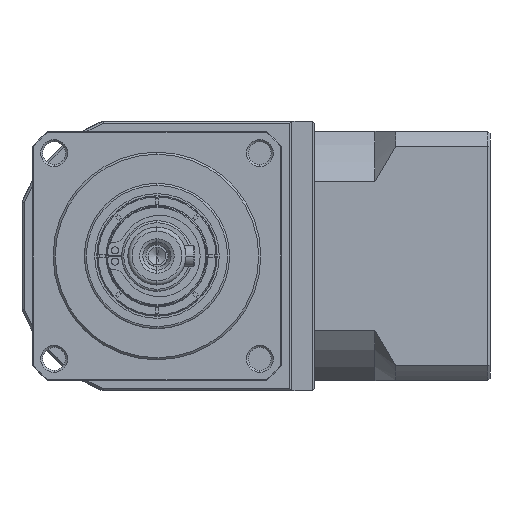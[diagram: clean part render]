
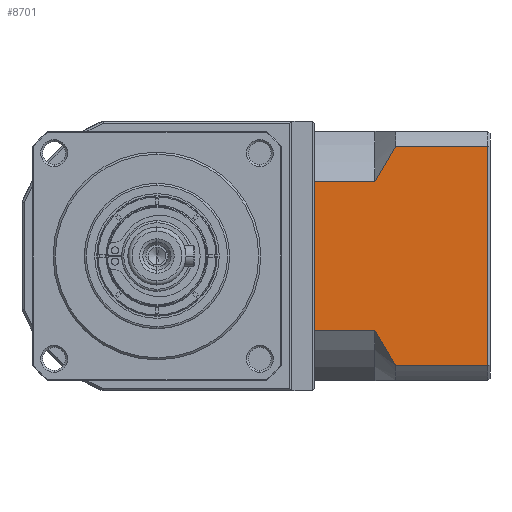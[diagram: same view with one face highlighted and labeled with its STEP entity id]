
A CAD part, left-side view. The second image highlights one B-rep face of the part: STEP entity #8701.
In plain terms, the highlighted planar face has unit normal (-1, 0, 0).
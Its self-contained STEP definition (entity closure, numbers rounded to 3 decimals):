
#1006 = EDGE_LOOP ( 'NONE', ( #67806, #91049, #91201, #48732, #108900, #2309, #54892, #103045 ) ) ;
#2309 = ORIENTED_EDGE ( 'NONE', *, *, #157780, .T. ) ;
#2858 = VECTOR ( 'NONE', #149520, 1000. ) ;
#5012 = VECTOR ( 'NONE', #123673, 1000. ) ;
#8701 = ADVANCED_FACE ( 'NONE', ( #153828 ), #146746, .F. ) ;
#11516 = AXIS2_PLACEMENT_3D ( 'NONE', #35962, #122458, #48401 ) ;
#18866 = EDGE_CURVE ( 'NONE', #95192, #151496, #136500, .T. ) ;
#20196 = CARTESIAN_POINT ( 'NONE',  ( -17.243, -89.723, -95.228 ) ) ;
#31110 = CARTESIAN_POINT ( 'NONE',  ( -17.243, -88.823, -96.588 ) ) ;
#32356 = CARTESIAN_POINT ( 'NONE',  ( -17.243, -84.723, -139.713 ) ) ;
#32505 = EDGE_CURVE ( 'NONE', #95192, #143646, #103246, .T. ) ;
#32747 = CARTESIAN_POINT ( 'NONE',  ( -17.243, -87.95, -97.966 ) ) ;
#33344 = LINE ( 'NONE', #149948, #91339 ) ;
#33567 = VECTOR ( 'NONE', #138031, 1000. ) ;
#35962 = CARTESIAN_POINT ( 'NONE',  ( -17.243, -112.423, -151.685 ) ) ;
#45199 = CARTESIAN_POINT ( 'NONE',  ( -17.243, -86.274, -100.774 ) ) ;
#46336 = CARTESIAN_POINT ( 'NONE',  ( -17.243, -111.923, -148.143 ) ) ;
#48401 = DIRECTION ( 'NONE',  ( 0., 1., 0. ) ) ;
#48732 = ORIENTED_EDGE ( 'NONE', *, *, #18866, .T. ) ;
#50282 = CARTESIAN_POINT ( 'NONE',  ( -17.243, -111.923, -151.685 ) ) ;
#52872 = VERTEX_POINT ( 'NONE', #99030 ) ;
#54321 = EDGE_CURVE ( 'NONE', #66064, #52872, #97816, .T. ) ;
#54892 = ORIENTED_EDGE ( 'NONE', *, *, #61483, .F. ) ;
#56847 = DIRECTION ( 'NONE',  ( 0., -1., 0. ) ) ;
#57293 = CARTESIAN_POINT ( 'NONE',  ( -17.243, -87.948, -145.4 ) ) ;
#57664 = CARTESIAN_POINT ( 'NONE',  ( -17.243, -84.723, -103.657 ) ) ;
#61483 = EDGE_CURVE ( 'NONE', #107026, #151642, #103833, .T. ) ;
#63013 = CARTESIAN_POINT ( 'NONE',  ( -17.243, -84.723, -148.143 ) ) ;
#66064 = VERTEX_POINT ( 'NONE', #46336 ) ;
#67806 = ORIENTED_EDGE ( 'NONE', *, *, #54321, .F. ) ;
#69719 = CARTESIAN_POINT ( 'NONE',  ( -17.243, -89.723, -148.143 ) ) ;
#75526 = B_SPLINE_CURVE_WITH_KNOTS ( 'NONE', 3,
 ( #32356, #118870, #131330, #57293, #143804, #69719 ),
 .UNSPECIFIED., .F., .F.,
 ( 4, 2, 4 ),
 ( 0.1, 0.104, 0.109 ),
 .UNSPECIFIED. ) ;
#75913 = DIRECTION ( 'NONE',  ( 0., 0., -1. ) ) ;
#78935 = VECTOR ( 'NONE', #136815, 1000. ) ;
#91049 = ORIENTED_EDGE ( 'NONE', *, *, #140314, .T. ) ;
#91201 = ORIENTED_EDGE ( 'NONE', *, *, #32505, .F. ) ;
#91339 = VECTOR ( 'NONE', #75913, 1000. ) ;
#95192 = VERTEX_POINT ( 'NONE', #124370 ) ;
#96693 = EDGE_CURVE ( 'NONE', #116438, #151496, #156905, .T. ) ;
#97816 = LINE ( 'NONE', #63013, #2858 ) ;
#99030 = CARTESIAN_POINT ( 'NONE',  ( -17.243, -89.723, -148.143 ) ) ;
#100352 = CARTESIAN_POINT ( 'NONE',  ( -17.243, -84.723, -139.713 ) ) ;
#101598 = CARTESIAN_POINT ( 'NONE',  ( -17.243, -111.923, -95.228 ) ) ;
#103045 = ORIENTED_EDGE ( 'NONE', *, *, #122545, .T. ) ;
#103246 = LINE ( 'NONE', #150365, #33567 ) ;
#103833 = LINE ( 'NONE', #111228, #5012 ) ;
#107026 = VERTEX_POINT ( 'NONE', #100352 ) ;
#108900 = ORIENTED_EDGE ( 'NONE', *, *, #96693, .F. ) ;
#111228 = CARTESIAN_POINT ( 'NONE',  ( -17.243, -84.723, -139.713 ) ) ;
#116438 = VERTEX_POINT ( 'NONE', #118989 ) ;
#117854 = CARTESIAN_POINT ( 'NONE',  ( -17.243, -84.723, -103.657 ) ) ;
#118870 = CARTESIAN_POINT ( 'NONE',  ( -17.243, -85.473, -141.169 ) ) ;
#118989 = CARTESIAN_POINT ( 'NONE',  ( -17.243, -70.223, -103.657 ) ) ;
#120138 = VECTOR ( 'NONE', #56847, 1000. ) ;
#121093 = CARTESIAN_POINT ( 'NONE',  ( -17.243, -70.223, -139.713 ) ) ;
#122458 = DIRECTION ( 'NONE',  ( 1., 0., 0. ) ) ;
#122545 = EDGE_CURVE ( 'NONE', #107026, #52872, #75526, .T. ) ;
#123673 = DIRECTION ( 'NONE',  ( 0., 1., 0. ) ) ;
#124370 = CARTESIAN_POINT ( 'NONE',  ( -17.243, -89.723, -95.228 ) ) ;
#130865 = CARTESIAN_POINT ( 'NONE',  ( -17.243, -84.723, -103.657 ) ) ;
#131330 = CARTESIAN_POINT ( 'NONE',  ( -17.243, -86.274, -142.595 ) ) ;
#131708 = CARTESIAN_POINT ( 'NONE',  ( -17.243, -85.471, -102.205 ) ) ;
#136500 = B_SPLINE_CURVE_WITH_KNOTS ( 'NONE', 3,
 ( #20196, #31110, #32747, #45199, #131708, #57664 ),
 .UNSPECIFIED., .F., .F.,
 ( 4, 2, 4 ),
 ( 0.052, 0.057, 0.062 ),
 .UNSPECIFIED. ) ;
#136815 = DIRECTION ( 'NONE',  ( 0., 0., 1. ) ) ;
#138031 = DIRECTION ( 'NONE',  ( 0., -1., 0. ) ) ;
#140314 = EDGE_CURVE ( 'NONE', #66064, #143646, #144773, .T. ) ;
#143646 = VERTEX_POINT ( 'NONE', #101598 ) ;
#143804 = CARTESIAN_POINT ( 'NONE',  ( -17.243, -88.822, -146.78 ) ) ;
#144773 = LINE ( 'NONE', #50282, #78935 ) ;
#146746 = PLANE ( 'NONE',  #11516 ) ;
#149520 = DIRECTION ( 'NONE',  ( 0., 1., 0. ) ) ;
#149948 = CARTESIAN_POINT ( 'NONE',  ( -17.243, -70.223, -151.685 ) ) ;
#150365 = CARTESIAN_POINT ( 'NONE',  ( -17.243, -84.723, -95.228 ) ) ;
#151496 = VERTEX_POINT ( 'NONE', #117854 ) ;
#151642 = VERTEX_POINT ( 'NONE', #121093 ) ;
#153828 = FACE_OUTER_BOUND ( 'NONE', #1006, .T. ) ;
#156905 = LINE ( 'NONE', #130865, #120138 ) ;
#157780 = EDGE_CURVE ( 'NONE', #116438, #151642, #33344, .T. ) ;
